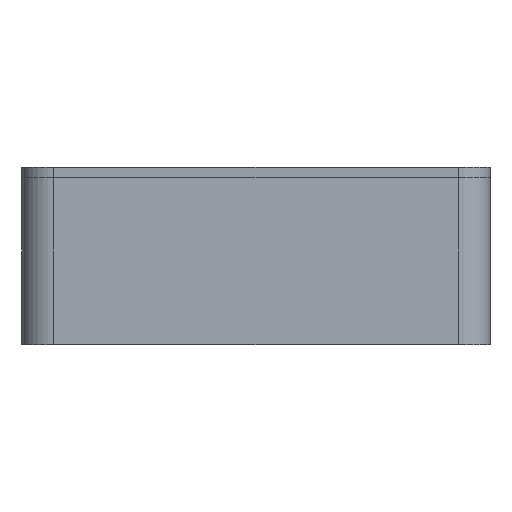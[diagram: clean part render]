
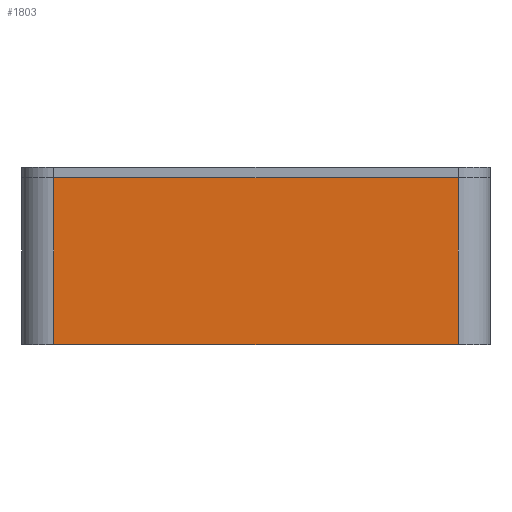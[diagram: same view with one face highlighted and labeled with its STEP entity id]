
A CAD part, front view. The second image highlights one B-rep face of the part: STEP entity #1803.
In plain terms, the highlighted planar face has unit normal (0, -1, 0).
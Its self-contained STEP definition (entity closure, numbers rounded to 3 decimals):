
#66 = PLANE('',#67);
#67 = AXIS2_PLACEMENT_3D('',#68,#69,#70);
#68 = CARTESIAN_POINT('',(0.,-178.,26.4));
#69 = DIRECTION('',(0.,0.,1.));
#70 = DIRECTION('',(1.,0.,0.));
#94 = CYLINDRICAL_SURFACE('',#95,5.);
#95 = AXIS2_PLACEMENT_3D('',#96,#97,#98);
#96 = CARTESIAN_POINT('',(5.,-173.,0.));
#97 = DIRECTION('',(0.,0.,1.));
#98 = DIRECTION('',(-1.,-0.,0.));
#122 = PLANE('',#123);
#123 = AXIS2_PLACEMENT_3D('',#124,#125,#126);
#124 = CARTESIAN_POINT('',(0.,-178.,0.));
#125 = DIRECTION('',(0.,0.,1.));
#126 = DIRECTION('',(1.,0.,0.));
#266 = VERTEX_POINT('',#267);
#267 = CARTESIAN_POINT('',(5.,-178.,26.4));
#289 = EDGE_CURVE('',#266,#290,#292,.T.);
#290 = VERTEX_POINT('',#291);
#291 = CARTESIAN_POINT('',(69.,-178.,26.4));
#292 = SURFACE_CURVE('',#293,(#297,#304),.PCURVE_S1.);
#293 = LINE('',#294,#295);
#294 = CARTESIAN_POINT('',(0.,-178.,26.4));
#295 = VECTOR('',#296,1.);
#296 = DIRECTION('',(1.,0.,0.));
#297 = PCURVE('',#66,#298);
#298 = DEFINITIONAL_REPRESENTATION('',(#299),#303);
#299 = LINE('',#300,#301);
#300 = CARTESIAN_POINT('',(0.,0.));
#301 = VECTOR('',#302,1.);
#302 = DIRECTION('',(1.,0.));
#303 = ( GEOMETRIC_REPRESENTATION_CONTEXT(2) 
PARAMETRIC_REPRESENTATION_CONTEXT() REPRESENTATION_CONTEXT('2D SPACE',''
  ) );
#304 = PCURVE('',#305,#310);
#305 = PLANE('',#306);
#306 = AXIS2_PLACEMENT_3D('',#307,#308,#309);
#307 = CARTESIAN_POINT('',(0.,-178.,0.));
#308 = DIRECTION('',(0.,1.,0.));
#309 = DIRECTION('',(0.,0.,1.));
#310 = DEFINITIONAL_REPRESENTATION('',(#311),#315);
#311 = LINE('',#312,#313);
#312 = CARTESIAN_POINT('',(26.4,0.));
#313 = VECTOR('',#314,1.);
#314 = DIRECTION('',(0.,1.));
#315 = ( GEOMETRIC_REPRESENTATION_CONTEXT(2) 
PARAMETRIC_REPRESENTATION_CONTEXT() REPRESENTATION_CONTEXT('2D SPACE',''
  ) );
#338 = CYLINDRICAL_SURFACE('',#339,5.);
#339 = AXIS2_PLACEMENT_3D('',#340,#341,#342);
#340 = CARTESIAN_POINT('',(69.,-173.,0.));
#341 = DIRECTION('',(0.,0.,1.));
#342 = DIRECTION('',(1.,0.,-0.));
#921 = VERTEX_POINT('',#922);
#922 = CARTESIAN_POINT('',(5.,-178.,0.));
#944 = EDGE_CURVE('',#921,#945,#947,.T.);
#945 = VERTEX_POINT('',#946);
#946 = CARTESIAN_POINT('',(69.,-178.,0.));
#947 = SURFACE_CURVE('',#948,(#952,#959),.PCURVE_S1.);
#948 = LINE('',#949,#950);
#949 = CARTESIAN_POINT('',(0.,-178.,0.));
#950 = VECTOR('',#951,1.);
#951 = DIRECTION('',(1.,0.,0.));
#952 = PCURVE('',#122,#953);
#953 = DEFINITIONAL_REPRESENTATION('',(#954),#958);
#954 = LINE('',#955,#956);
#955 = CARTESIAN_POINT('',(0.,0.));
#956 = VECTOR('',#957,1.);
#957 = DIRECTION('',(1.,0.));
#958 = ( GEOMETRIC_REPRESENTATION_CONTEXT(2) 
PARAMETRIC_REPRESENTATION_CONTEXT() REPRESENTATION_CONTEXT('2D SPACE',''
  ) );
#959 = PCURVE('',#305,#960);
#960 = DEFINITIONAL_REPRESENTATION('',(#961),#965);
#961 = LINE('',#962,#963);
#962 = CARTESIAN_POINT('',(0.,0.));
#963 = VECTOR('',#964,1.);
#964 = DIRECTION('',(0.,1.));
#965 = ( GEOMETRIC_REPRESENTATION_CONTEXT(2) 
PARAMETRIC_REPRESENTATION_CONTEXT() REPRESENTATION_CONTEXT('2D SPACE',''
  ) );
#1068 = EDGE_CURVE('',#921,#266,#1069,.T.);
#1069 = SURFACE_CURVE('',#1070,(#1074,#1081),.PCURVE_S1.);
#1070 = LINE('',#1071,#1072);
#1071 = CARTESIAN_POINT('',(5.,-178.,0.));
#1072 = VECTOR('',#1073,1.);
#1073 = DIRECTION('',(0.,0.,1.));
#1074 = PCURVE('',#94,#1075);
#1075 = DEFINITIONAL_REPRESENTATION('',(#1076),#1080);
#1076 = LINE('',#1077,#1078);
#1077 = CARTESIAN_POINT('',(1.571,0.));
#1078 = VECTOR('',#1079,1.);
#1079 = DIRECTION('',(0.,1.));
#1080 = ( GEOMETRIC_REPRESENTATION_CONTEXT(2) 
PARAMETRIC_REPRESENTATION_CONTEXT() REPRESENTATION_CONTEXT('2D SPACE',''
  ) );
#1081 = PCURVE('',#305,#1082);
#1082 = DEFINITIONAL_REPRESENTATION('',(#1083),#1087);
#1083 = LINE('',#1084,#1085);
#1084 = CARTESIAN_POINT('',(0.,5.));
#1085 = VECTOR('',#1086,1.);
#1086 = DIRECTION('',(1.,0.));
#1087 = ( GEOMETRIC_REPRESENTATION_CONTEXT(2) 
PARAMETRIC_REPRESENTATION_CONTEXT() REPRESENTATION_CONTEXT('2D SPACE',''
  ) );
#1781 = EDGE_CURVE('',#945,#290,#1782,.T.);
#1782 = SURFACE_CURVE('',#1783,(#1787,#1794),.PCURVE_S1.);
#1783 = LINE('',#1784,#1785);
#1784 = CARTESIAN_POINT('',(69.,-178.,0.));
#1785 = VECTOR('',#1786,1.);
#1786 = DIRECTION('',(0.,0.,1.));
#1787 = PCURVE('',#338,#1788);
#1788 = DEFINITIONAL_REPRESENTATION('',(#1789),#1793);
#1789 = LINE('',#1790,#1791);
#1790 = CARTESIAN_POINT('',(-1.571,0.));
#1791 = VECTOR('',#1792,1.);
#1792 = DIRECTION('',(-0.,1.));
#1793 = ( GEOMETRIC_REPRESENTATION_CONTEXT(2) 
PARAMETRIC_REPRESENTATION_CONTEXT() REPRESENTATION_CONTEXT('2D SPACE',''
  ) );
#1794 = PCURVE('',#305,#1795);
#1795 = DEFINITIONAL_REPRESENTATION('',(#1796),#1800);
#1796 = LINE('',#1797,#1798);
#1797 = CARTESIAN_POINT('',(0.,69.));
#1798 = VECTOR('',#1799,1.);
#1799 = DIRECTION('',(1.,0.));
#1800 = ( GEOMETRIC_REPRESENTATION_CONTEXT(2) 
PARAMETRIC_REPRESENTATION_CONTEXT() REPRESENTATION_CONTEXT('2D SPACE',''
  ) );
#1803 = ADVANCED_FACE('',(#1804),#305,.F.);
#1804 = FACE_BOUND('',#1805,.F.);
#1805 = EDGE_LOOP('',(#1806,#1807,#1808,#1809));
#1806 = ORIENTED_EDGE('',*,*,#944,.F.);
#1807 = ORIENTED_EDGE('',*,*,#1068,.T.);
#1808 = ORIENTED_EDGE('',*,*,#289,.T.);
#1809 = ORIENTED_EDGE('',*,*,#1781,.F.);
